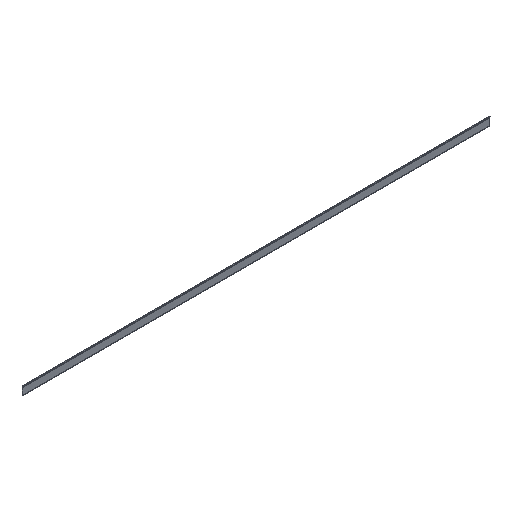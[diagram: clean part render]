
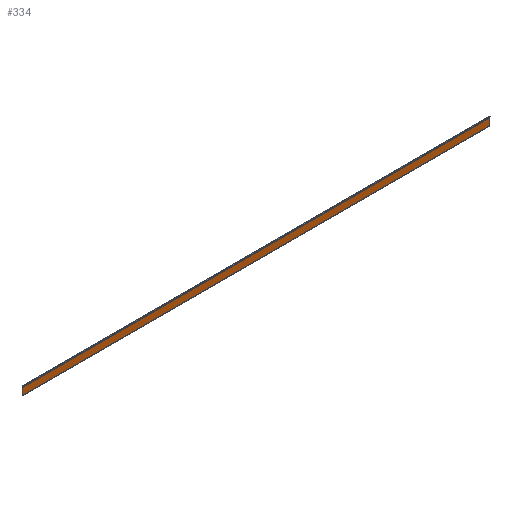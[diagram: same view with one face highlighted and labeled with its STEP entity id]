
A CAD part, isometric view. The second image highlights one B-rep face of the part: STEP entity #334.
In plain terms, the highlighted planar face has unit normal (0, -1, 0).
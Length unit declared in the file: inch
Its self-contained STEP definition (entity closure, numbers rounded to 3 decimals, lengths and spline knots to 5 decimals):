
#18=PLANE('',#376);
#32=FACE_OUTER_BOUND('',#50,.T.);
#50=EDGE_LOOP('',(#247,#248,#249,#250));
#74=LINE('',#528,#110);
#75=LINE('',#531,#111);
#76=LINE('',#533,#112);
#77=LINE('',#534,#113);
#110=VECTOR('',#428,0.3937);
#111=VECTOR('',#431,0.3937);
#112=VECTOR('',#432,0.3937);
#113=VECTOR('',#433,0.3937);
#157=VERTEX_POINT('',#524);
#158=VERTEX_POINT('',#526);
#159=VERTEX_POINT('',#530);
#160=VERTEX_POINT('',#532);
#194=EDGE_CURVE('',#157,#158,#74,.T.);
#195=EDGE_CURVE('',#159,#157,#75,.T.);
#196=EDGE_CURVE('',#160,#158,#76,.T.);
#197=EDGE_CURVE('',#159,#160,#77,.T.);
#247=ORIENTED_EDGE('',*,*,#195,.T.);
#248=ORIENTED_EDGE('',*,*,#194,.T.);
#249=ORIENTED_EDGE('',*,*,#196,.F.);
#250=ORIENTED_EDGE('',*,*,#197,.F.);
#334=ADVANCED_FACE('',(#32),#18,.T.);
#376=AXIS2_PLACEMENT_3D('',#529,#429,#430);
#428=DIRECTION('',(1.,0.,0.));
#429=DIRECTION('center_axis',(0.,-1.,0.));
#430=DIRECTION('ref_axis',(0.,0.,-1.));
#431=DIRECTION('',(0.,0.,-1.));
#432=DIRECTION('',(0.,0.,-1.));
#433=DIRECTION('',(1.,0.,0.));
#524=CARTESIAN_POINT('',(0.,0.96348,-3.03161));
#526=CARTESIAN_POINT('',(120.,0.96348,-3.03161));
#528=CARTESIAN_POINT('',(0.,0.96348,-3.03161));
#529=CARTESIAN_POINT('Origin',(0.,0.96348,-1.27331));
#530=CARTESIAN_POINT('',(0.,0.96348,-1.27331));
#531=CARTESIAN_POINT('',(0.,0.96348,-1.27331));
#532=CARTESIAN_POINT('',(120.,0.96348,-1.27331));
#533=CARTESIAN_POINT('',(120.,0.96348,-1.27331));
#534=CARTESIAN_POINT('',(0.,0.96348,-1.27331));
